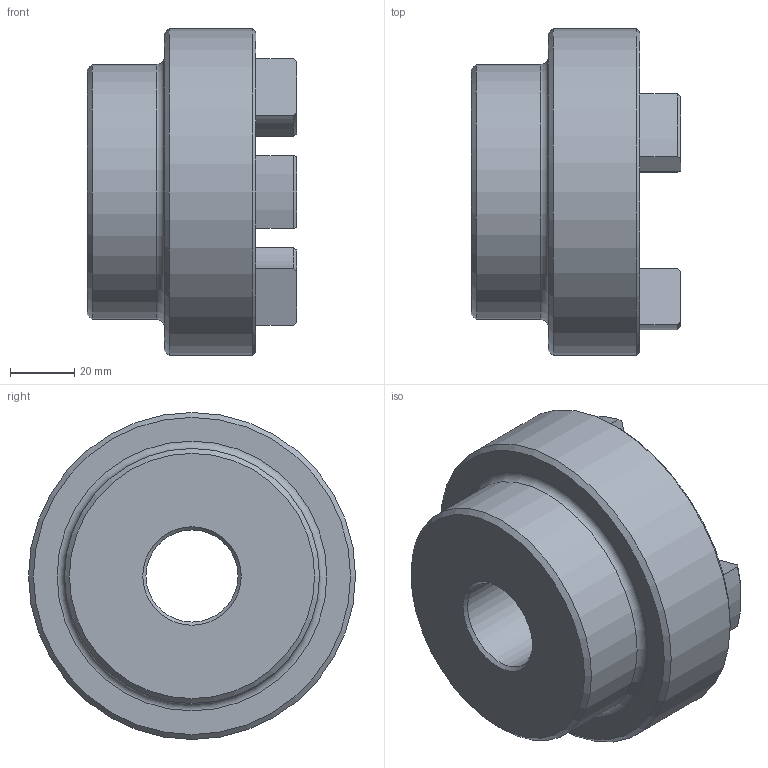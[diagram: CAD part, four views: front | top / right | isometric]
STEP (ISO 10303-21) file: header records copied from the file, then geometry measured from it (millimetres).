
FILE_DESCRIPTION (( 'STEP AP203' ), '1' );
FILE_NAME ('RC4.step', '2024-07-24T17:37:42', ( 'Adlan' ), ( '' ), 'SwSTEP 2.0', 'SolidWorks 2013', '' );
FILE_SCHEMA (( 'CONFIG_CONTROL_DESIGN' ));
Length unit declared in the file: inch
Products named in the file (1): RC4
Bounding box: 65.02 x 101.6 x 101.6 mm (x, y, z)
Volume: 256458.4 mm3; surface area: 40361.9 mm2
Topology: 1 solids, 1 shells, 60 faces, 146 edges, 90 vertices
Faces by surface type: cylinder 24, plane 13, torus 13, cone 10
Full cylindrical faces by diameter (mm): 28.588 x1, 79.248 x1, 101.6 x1
Entity records: 1841 total; most frequent: CARTESIAN_POINT 341, DIRECTION 324, ORIENTED_EDGE 274, EDGE_CURVE 137, AXIS2_PLACEMENT_3D 132, VERTEX_POINT 89, EDGE_LOOP 72, CIRCLE 71
